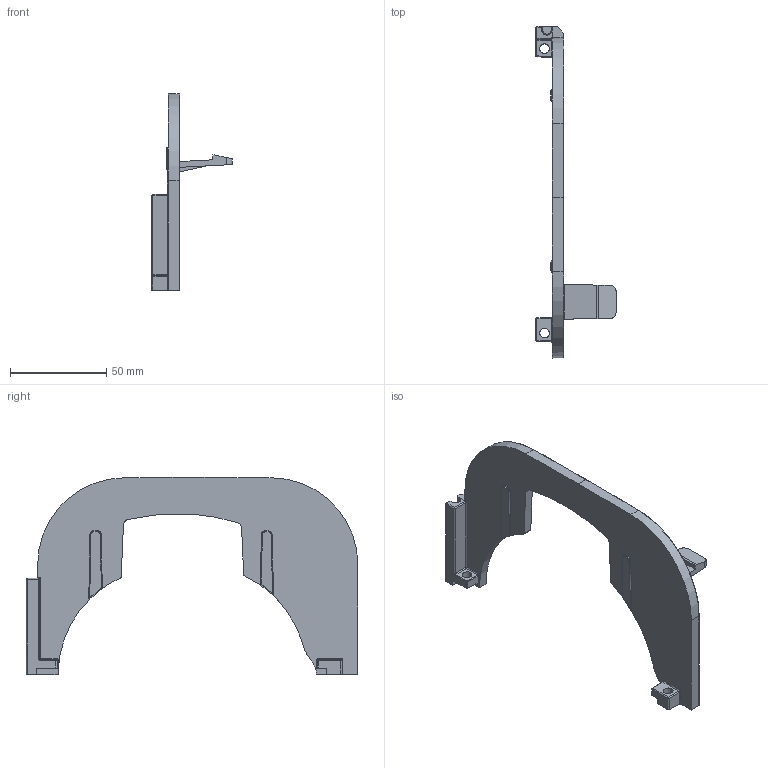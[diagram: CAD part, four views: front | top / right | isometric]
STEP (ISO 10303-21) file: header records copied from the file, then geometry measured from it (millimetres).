
FILE_DESCRIPTION (( 'STEP AP214' ), '1' );
FILE_NAME ('P-00147 - Interface Flange Left - v2.2.6_Default Configuration.STEP', '2026-06-12T21:53:37', ( '' ), ( '' ), 'SwSTEP 2.0', 'SolidWorks 2023', '' );
FILE_SCHEMA (( 'AUTOMOTIVE_DESIGN' ));
Length unit declared in the file: inch
Products named in the file (1): P-00147 - Interface Flange Left - v2.2.6_Default Configuration
Bounding box: 41.5 x 172 x 102.2 mm (x, y, z)
Volume: 48643.5 mm3; surface area: 24153.7 mm2
Topology: 1 solids, 1 shells, 201 faces, 509 edges, 313 vertices
Faces by surface type: bspline 98, plane 45, cylinder 37, cone 8, torus 7, sphere 6
Entity records: 7716 total; most frequent: CARTESIAN_POINT 3625, ORIENTED_EDGE 1014, DIRECTION 593, EDGE_CURVE 507, VERTEX_POINT 313, EDGE_LOOP 210, ADVANCED_FACE 201, VECTOR 201
